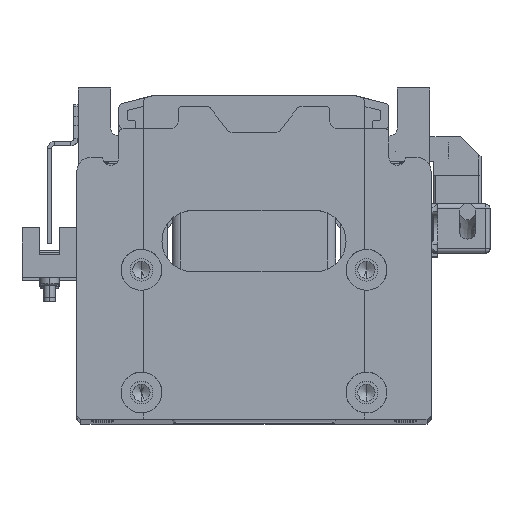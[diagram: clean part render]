
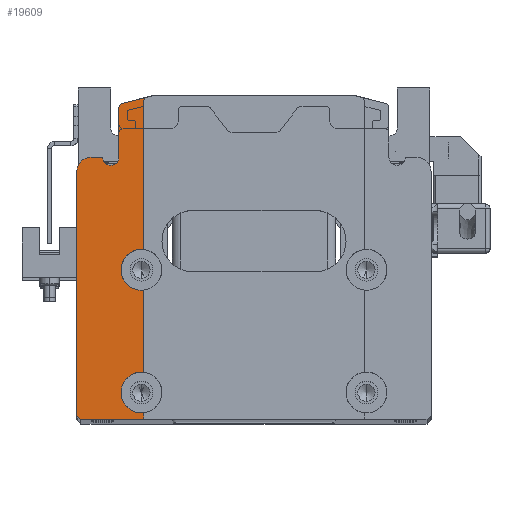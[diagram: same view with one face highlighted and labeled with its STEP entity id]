
A CAD part, top view. The second image highlights one B-rep face of the part: STEP entity #19609.
In plain terms, the highlighted planar face has unit normal (0, 0, 1).
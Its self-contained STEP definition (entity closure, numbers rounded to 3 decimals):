
#109 = EDGE_CURVE ( 'NONE', #31724, #20125, #582, .T. ) ;
#321 = EDGE_CURVE ( 'NONE', #27327, #31724, #42443, .T. ) ;
#582 = CIRCLE ( 'NONE', #25836, 5. ) ;
#908 = CARTESIAN_POINT ( 'NONE',  ( 0., 0., 12.5 ) ) ;
#940 = CARTESIAN_POINT ( 'NONE',  ( -27.5, -33., 12.5 ) ) ;
#1217 = ORIENTED_EDGE ( 'NONE', *, *, #35938, .F. ) ;
#1729 = CARTESIAN_POINT ( 'NONE',  ( -27., 39.5, 12.5 ) ) ;
#1869 = CARTESIAN_POINT ( 'NONE',  ( -27., -39.5, 12.5 ) ) ;
#1891 = VERTEX_POINT ( 'NONE', #38023 ) ;
#2237 = ORIENTED_EDGE ( 'NONE', *, *, #43212, .T. ) ;
#2366 = CARTESIAN_POINT ( 'NONE',  ( -27., -28.025, 12.5 ) ) ;
#2590 = DIRECTION ( 'NONE',  ( 0., 0., 1. ) ) ;
#3098 = CARTESIAN_POINT ( 'NONE',  ( -32.243, 37.689, 12.5 ) ) ;
#3160 = VECTOR ( 'NONE', #3380, 1000. ) ;
#3380 = DIRECTION ( 'NONE',  ( 1., 0., 0. ) ) ;
#3668 = DIRECTION ( 'NONE',  ( 1., 0., 0. ) ) ;
#4109 = AXIS2_PLACEMENT_3D ( 'NONE', #21119, #14290, #17946 ) ;
#4400 = EDGE_CURVE ( 'NONE', #20667, #32553, #10048, .T. ) ;
#4488 = EDGE_CURVE ( 'NONE', #28534, #12877, #29642, .T. ) ;
#4621 = AXIS2_PLACEMENT_3D ( 'NONE', #20164, #44556, #6432 ) ;
#5087 = CARTESIAN_POINT ( 'NONE',  ( -37., 24.5, 12.5 ) ) ;
#5567 = CARTESIAN_POINT ( 'NONE',  ( -27., 1.975, 12.5 ) ) ;
#5594 = CIRCLE ( 'NONE', #39851, 3.5 ) ;
#5674 = CARTESIAN_POINT ( 'NONE',  ( -27., -7.975, 12.5 ) ) ;
#6010 = VECTOR ( 'NONE', #25546, 1000. ) ;
#6432 = DIRECTION ( 'NONE',  ( 1., 0., 0. ) ) ;
#7310 = DIRECTION ( 'NONE',  ( 1., 0., 0. ) ) ;
#7607 = EDGE_CURVE ( 'NONE', #23273, #21917, #13033, .T. ) ;
#7637 = DIRECTION ( 'NONE',  ( 0., -1., 0. ) ) ;
#8036 = EDGE_LOOP ( 'NONE', ( #18870, #17587, #33668, #11449, #1217, #18916, #21823, #8983, #2237, #16456, #26499, #25995, #24301, #32319, #34917, #11519, #37008 ) ) ;
#8448 = VECTOR ( 'NONE', #35792, 1000. ) ;
#8717 = AXIS2_PLACEMENT_3D ( 'NONE', #908, #14675, #28177 ) ;
#8720 = VERTEX_POINT ( 'NONE', #38716 ) ;
#8953 = LINE ( 'NONE', #21781, #8448 ) ;
#8983 = ORIENTED_EDGE ( 'NONE', *, *, #40364, .T. ) ;
#9856 = CIRCLE ( 'NONE', #42242, 5. ) ;
#10048 = CIRCLE ( 'NONE', #42259, 1. ) ;
#10501 = LINE ( 'NONE', #25701, #39825 ) ;
#10510 = CARTESIAN_POINT ( 'NONE',  ( -26.243, 39.189, 12.5 ) ) ;
#11449 = ORIENTED_EDGE ( 'NONE', *, *, #42732, .F. ) ;
#11519 = ORIENTED_EDGE ( 'NONE', *, *, #21523, .T. ) ;
#11777 = FACE_OUTER_BOUND ( 'NONE', #8036, .T. ) ;
#12078 = VERTEX_POINT ( 'NONE', #25872 ) ;
#12290 = CARTESIAN_POINT ( 'NONE',  ( -39.8, 21., 12.5 ) ) ;
#12877 = VERTEX_POINT ( 'NONE', #5674 ) ;
#13033 = CIRCLE ( 'NONE', #34262, 1. ) ;
#13446 = CARTESIAN_POINT ( 'NONE',  ( -32.5, -3., 12.5 ) ) ;
#13462 = CARTESIAN_POINT ( 'NONE',  ( 0., 24.5, 12.5 ) ) ;
#13544 = LINE ( 'NONE', #13462, #3160 ) ;
#13600 = CARTESIAN_POINT ( 'NONE',  ( -26., 38.219, 12.5 ) ) ;
#14290 = DIRECTION ( 'NONE',  ( 0., 0., 1. ) ) ;
#14675 = DIRECTION ( 'NONE',  ( 0., 0., 1. ) ) ;
#14808 = EDGE_CURVE ( 'NONE', #21917, #20667, #8953, .T. ) ;
#15163 = VERTEX_POINT ( 'NONE', #44948 ) ;
#15787 = DIRECTION ( 'NONE',  ( 1., 0., 0. ) ) ;
#16059 = LINE ( 'NONE', #27350, #23625 ) ;
#16456 = ORIENTED_EDGE ( 'NONE', *, *, #37734, .T. ) ;
#17032 = DIRECTION ( 'NONE',  ( 0., 1., 0. ) ) ;
#17222 = VERTEX_POINT ( 'NONE', #5567 ) ;
#17371 = LINE ( 'NONE', #31581, #31520 ) ;
#17587 = ORIENTED_EDGE ( 'NONE', *, *, #4400, .T. ) ;
#17638 = CARTESIAN_POINT ( 'NONE',  ( -27., -37.975, 12.5 ) ) ;
#17938 = EDGE_CURVE ( 'NONE', #8720, #1891, #17371, .T. ) ;
#17946 = DIRECTION ( 'NONE',  ( 1., 0., 0. ) ) ;
#18678 = LINE ( 'NONE', #35868, #40395 ) ;
#18870 = ORIENTED_EDGE ( 'NONE', *, *, #14808, .T. ) ;
#18916 = ORIENTED_EDGE ( 'NONE', *, *, #42551, .T. ) ;
#19609 = ADVANCED_FACE ( 'NONE', ( #11777 ), #38954, .T. ) ;
#20125 = VERTEX_POINT ( 'NONE', #17638 ) ;
#20164 = CARTESIAN_POINT ( 'NONE',  ( -35., 24.5, 12.5 ) ) ;
#20667 = VERTEX_POINT ( 'NONE', #3098 ) ;
#20862 = DIRECTION ( 'NONE',  ( 0., 0., -1. ) ) ;
#21119 = CARTESIAN_POINT ( 'NONE',  ( -27.5, -3., 12.5 ) ) ;
#21523 = EDGE_CURVE ( 'NONE', #17222, #23273, #10501, .T. ) ;
#21540 = DIRECTION ( 'NONE',  ( 0., 1., 0. ) ) ;
#21776 = DIRECTION ( 'NONE',  ( 0., 1., 0. ) ) ;
#21781 = CARTESIAN_POINT ( 'NONE',  ( -10.765, 43.059, 12.5 ) ) ;
#21823 = ORIENTED_EDGE ( 'NONE', *, *, #17938, .T. ) ;
#21917 = VERTEX_POINT ( 'NONE', #10510 ) ;
#22177 = CARTESIAN_POINT ( 'NONE',  ( -32.5, -33., 12.5 ) ) ;
#22340 = CARTESIAN_POINT ( 'NONE',  ( -43.3, -39.5, 12.5 ) ) ;
#23236 = CARTESIAN_POINT ( 'NONE',  ( -40.9, -40.9, 12.5 ) ) ;
#23273 = VERTEX_POINT ( 'NONE', #28837 ) ;
#23507 = DIRECTION ( 'NONE',  ( 1., 0., 0. ) ) ;
#23625 = VECTOR ( 'NONE', #17032, 1000. ) ;
#23861 = DIRECTION ( 'NONE',  ( 1., 0., 0. ) ) ;
#24301 = ORIENTED_EDGE ( 'NONE', *, *, #30615, .T. ) ;
#25546 = DIRECTION ( 'NONE',  ( 1., 0., 0. ) ) ;
#25701 = CARTESIAN_POINT ( 'NONE',  ( -27., 39.5, 12.5 ) ) ;
#25836 = AXIS2_PLACEMENT_3D ( 'NONE', #44202, #2590, #30469 ) ;
#25872 = CARTESIAN_POINT ( 'NONE',  ( -39.8, 24.5, 12.5 ) ) ;
#25901 = VERTEX_POINT ( 'NONE', #5087 ) ;
#25995 = ORIENTED_EDGE ( 'NONE', *, *, #321, .F. ) ;
#26375 = LINE ( 'NONE', #23236, #44811 ) ;
#26499 = ORIENTED_EDGE ( 'NONE', *, *, #109, .F. ) ;
#27270 = CARTESIAN_POINT ( 'NONE',  ( -33., 36.719, 12.5 ) ) ;
#27327 = VERTEX_POINT ( 'NONE', #2366 ) ;
#27350 = CARTESIAN_POINT ( 'NONE',  ( -27., 39.5, 12.5 ) ) ;
#27414 = VERTEX_POINT ( 'NONE', #37363 ) ;
#27839 = LINE ( 'NONE', #22340, #6010 ) ;
#28177 = DIRECTION ( 'NONE',  ( 1., 0., 0. ) ) ;
#28206 = DIRECTION ( 'NONE',  ( 0., 0., 1. ) ) ;
#28534 = VERTEX_POINT ( 'NONE', #13446 ) ;
#28837 = CARTESIAN_POINT ( 'NONE',  ( -27., 38.219, 12.5 ) ) ;
#29642 = CIRCLE ( 'NONE', #4109, 5. ) ;
#30109 = CARTESIAN_POINT ( 'NONE',  ( -32., 36.719, 12.5 ) ) ;
#30469 = DIRECTION ( 'NONE',  ( 1., 0., 0. ) ) ;
#30615 = EDGE_CURVE ( 'NONE', #27327, #12877, #44574, .T. ) ;
#30688 = VERTEX_POINT ( 'NONE', #1869 ) ;
#31520 = VECTOR ( 'NONE', #7637, 1000. ) ;
#31581 = CARTESIAN_POINT ( 'NONE',  ( -43.3, 39.5, 12.5 ) ) ;
#31724 = VERTEX_POINT ( 'NONE', #22177 ) ;
#32319 = ORIENTED_EDGE ( 'NONE', *, *, #4488, .F. ) ;
#32553 = VERTEX_POINT ( 'NONE', #27270 ) ;
#32918 = DIRECTION ( 'NONE',  ( 0., 1., 0. ) ) ;
#33580 = DIRECTION ( 'NONE',  ( 0., 0., 1. ) ) ;
#33668 = ORIENTED_EDGE ( 'NONE', *, *, #42377, .F. ) ;
#33735 = DIRECTION ( 'NONE',  ( 0.707, -0.707, 0. ) ) ;
#34245 = CARTESIAN_POINT ( 'NONE',  ( -27.5, -3., 12.5 ) ) ;
#34262 = AXIS2_PLACEMENT_3D ( 'NONE', #13600, #20862, #3668 ) ;
#34917 = ORIENTED_EDGE ( 'NONE', *, *, #43688, .F. ) ;
#35792 = DIRECTION ( 'NONE',  ( -0.97, -0.243, 0. ) ) ;
#35868 = CARTESIAN_POINT ( 'NONE',  ( -33., 0., 12.5 ) ) ;
#35938 = EDGE_CURVE ( 'NONE', #12078, #25901, #13544, .T. ) ;
#36612 = CIRCLE ( 'NONE', #4621, 2. ) ;
#37008 = ORIENTED_EDGE ( 'NONE', *, *, #7607, .T. ) ;
#37363 = CARTESIAN_POINT ( 'NONE',  ( -42.3, -39.5, 12.5 ) ) ;
#37594 = VECTOR ( 'NONE', #32918, 1000. ) ;
#37734 = EDGE_CURVE ( 'NONE', #30688, #20125, #16059, .T. ) ;
#38023 = CARTESIAN_POINT ( 'NONE',  ( -43.3, -38.5, 12.5 ) ) ;
#38716 = CARTESIAN_POINT ( 'NONE',  ( -43.3, 21., 12.5 ) ) ;
#38954 = PLANE ( 'NONE',  #8717 ) ;
#38978 = AXIS2_PLACEMENT_3D ( 'NONE', #940, #28206, #7310 ) ;
#39759 = DIRECTION ( 'NONE',  ( 0., 0., 1. ) ) ;
#39825 = VECTOR ( 'NONE', #21776, 1000. ) ;
#39851 = AXIS2_PLACEMENT_3D ( 'NONE', #12290, #39759, #15787 ) ;
#40364 = EDGE_CURVE ( 'NONE', #1891, #27414, #26375, .T. ) ;
#40395 = VECTOR ( 'NONE', #21540, 1000. ) ;
#42242 = AXIS2_PLACEMENT_3D ( 'NONE', #34245, #44649, #23861 ) ;
#42259 = AXIS2_PLACEMENT_3D ( 'NONE', #30109, #33580, #23507 ) ;
#42377 = EDGE_CURVE ( 'NONE', #15163, #32553, #18678, .T. ) ;
#42443 = CIRCLE ( 'NONE', #38978, 5. ) ;
#42551 = EDGE_CURVE ( 'NONE', #12078, #8720, #5594, .T. ) ;
#42732 = EDGE_CURVE ( 'NONE', #25901, #15163, #36612, .T. ) ;
#43212 = EDGE_CURVE ( 'NONE', #27414, #30688, #27839, .T. ) ;
#43688 = EDGE_CURVE ( 'NONE', #17222, #28534, #9856, .T. ) ;
#44202 = CARTESIAN_POINT ( 'NONE',  ( -27.5, -33., 12.5 ) ) ;
#44556 = DIRECTION ( 'NONE',  ( 0., 0., 1. ) ) ;
#44574 = LINE ( 'NONE', #1729, #37594 ) ;
#44649 = DIRECTION ( 'NONE',  ( 0., 0., 1. ) ) ;
#44811 = VECTOR ( 'NONE', #33735, 1000. ) ;
#44948 = CARTESIAN_POINT ( 'NONE',  ( -33., 24.5, 12.5 ) ) ;
